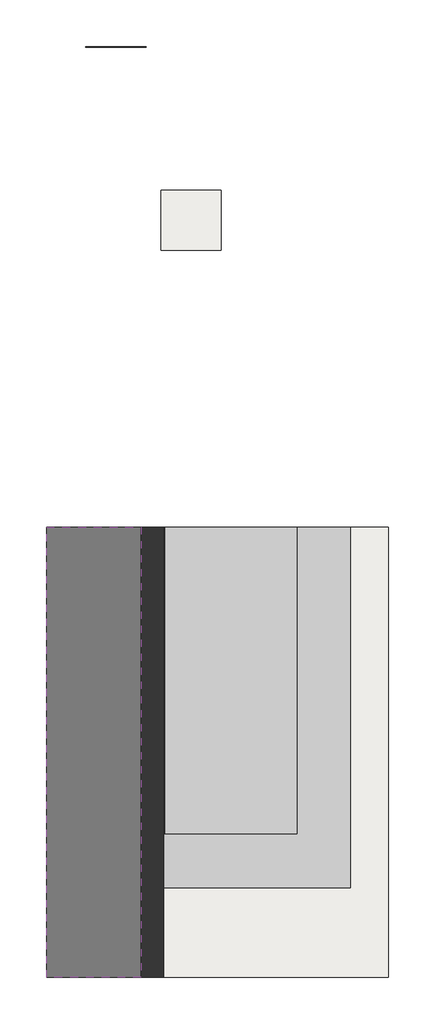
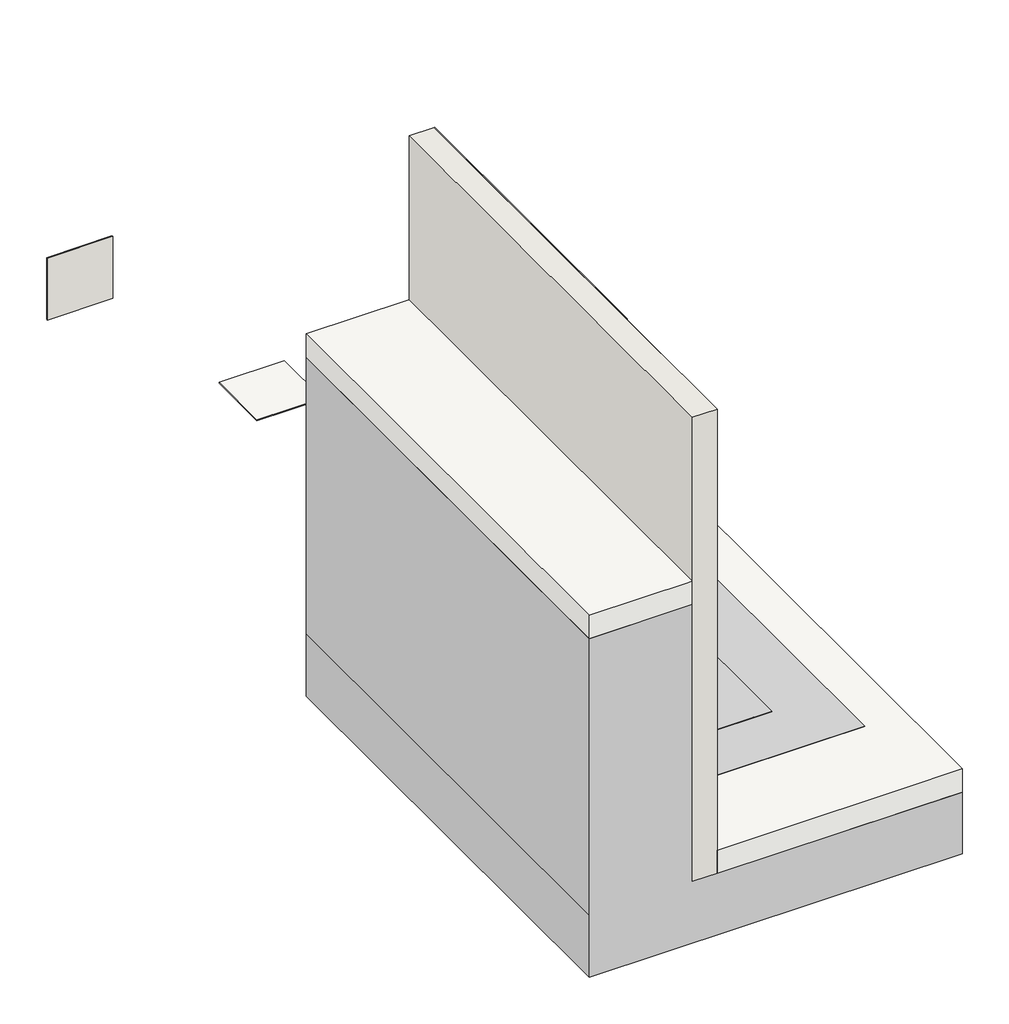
# One storey: 3 slabs, 2 walls, 1 proxy.
"""IFC4 building model written with IfcOpenShell, lengths in millimetres."""

from ifc_helpers import new_model, si_unit, frame, origin, place, context, project, spatial, polyline, outline, extrude, transform, mapped, element, save
from components import generic_models_e048866b

model = new_model("IFC4")

# Units and contexts
model_context = context("Model", 3, world=origin())
ifc_project = project(units=[si_unit("LENGTHUNIT", "METRE", prefix="MILLI")], contexts=[model_context])

# Site, building, storey
site = spatial("IfcSite", under=ifc_project)
building = spatial("IfcBuilding", under=site)
storey = spatial("IfcBuildingStorey", under=building, Name="ARQ Térreo", Elevation=-2.523798)

# Proxy
placement = place(None, origin())
generic_models_shape = generic_models_e048866b(model_context)
element("IfcBuildingElementProxy", 1, Name="IMPER:IMPER:433934 : IMPER:IMPER:433934", ObjectType="IMPER:IMPER:433934 : IMPER:IMPER:433934", at=placement, inside=storey, context=model_context, shape_type="MappedRepresentation", body=[
    mapped(generic_models_shape, transform((0.0, 0.0, 0.0), x_axis=(1.0, 0.0, 0.0), y_axis=(0.0, 1.0, 0.0), z_axis=(0.0, 0.0, 1.0))),
])

# Slabs
element("IfcSlab", 2, ObjectType="Genérico 150 mm", at=placement, inside=storey, context=model_context, shape_type="SweptSolid", body=[
    extrude(outline(polyline([(-351.9704105, 145.8700195), (1148.0295895, 145.8700195), (1148.0295895, -2854.1299805), (-351.9704105, -2854.1299805), (-351.9704105, 145.8700195)])), frame((0.0, 0.0, -2.523798), z_axis=(0.0, 0.0, 1.0), x_axis=(1.0, 0.0, 0.0)), (0.0, 0.0, 1.0), 150.0),
])
element("IfcSlab", 3, ObjectType="Genérico 150 mm", at=placement, inside=storey, context=model_context, shape_type="SweptSolid", body=[
    extrude(outline(polyline([(-1133.0721601, 145.8700195), (-501.9704105, 145.8700195), (-501.9704105, -2854.1299805), (-1133.0721601, -2854.1299805), (-1133.0721601, 145.8700195)])), frame((0.0, 0.0, 1787.9453576), z_axis=(0.0, 0.0, 1.0), x_axis=(1.0, 0.0, 0.0)), (0.0, 0.0, 1.0), 150.0),
])
element("IfcSlab", 4, ObjectType="IMPH_VANDEXSUPER", at=placement, inside=storey, context=model_context, shape_type="SweptSolid", body=[
    extrude(outline(polyline([(31.1278084, 1990.496796), (-368.8721916, 1990.496796), (-368.8721916, 2390.496796), (31.1278084, 2390.496796), (31.1278084, 1990.496796)])), frame((0.0, 0.0, -8.523798), z_axis=(0.0, 0.0, 1.0), x_axis=(1.0, 0.0, 0.0)), (0.0, 0.0, 1.0), 6.0),
])

# Walls
element("IfcWall", 5, ObjectType="Parede básica:Parede Concreto", at=placement, inside=storey, context=model_context, shape_type="SweptSolid", body=[
    extrude(outline(polyline([(-501.9704105, -2854.1299805), (-501.9704105, 145.8700195), (-351.9704105, 145.8700195), (-351.9704105, -2854.1299805), (-501.9704105, -2854.1299805)])), frame((0.0, 0.0, -2.523798), z_axis=(0.0, 0.0, 1.0), x_axis=(1.0, 0.0, 0.0)), (0.0, 0.0, 1.0), 3000.0),
])
element("IfcWall", 6, ObjectType="IMPV_VANDEXSUPER", at=placement, inside=storey, context=model_context, shape_type="SweptSolid", body=[
    extrude(outline(polyline([(-870.3325309, 3348.8700195), (-470.3325309, 3348.8700195), (-470.3325309, 3342.8700195), (-870.3325309, 3342.8700195), (-870.3325309, 3348.8700195)])), frame((0.0, 0.0, -2.523798), z_axis=(0.0, 0.0, 1.0), x_axis=(1.0, 0.0, 0.0)), (0.0, 0.0, 1.0), 400.0),
])

save(model, "model.ifc")
